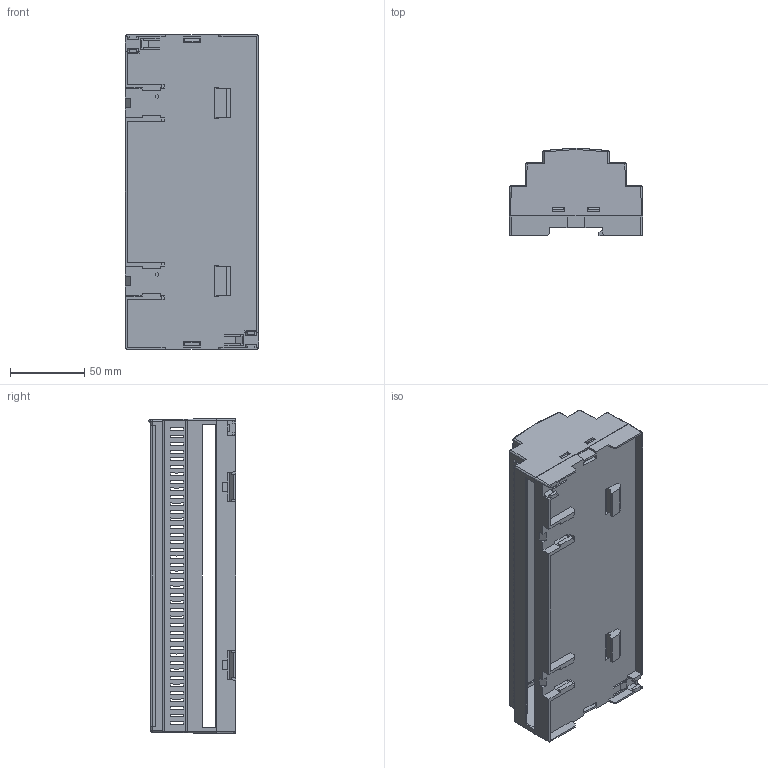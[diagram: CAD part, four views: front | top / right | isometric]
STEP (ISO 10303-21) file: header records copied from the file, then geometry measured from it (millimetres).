
FILE_DESCRIPTION (( 'STEP AP203' ), '1' );
FILE_NAME ('RT-212-E.STEP', '2021-05-31T08:59:29', ( '' ), ( '' ), 'SwSTEP 2.0', 'SolidWorks 2021', '' );
FILE_SCHEMA (( 'CONFIG_CONTROL_DESIGN' ));
Length unit declared in the file: millimetre
Products named in the file (4): RT-212-25_RT-212-25-M3; RT-212-E; RT-212-P-1; RT-212-P-2_E
Assembly tree (3 placements, depth 2):
  RT-212-E
    RT-212-P-1
    RT-212-P-2_E
    RT-212-25_RT-212-25-M3
Bounding box: 90 x 58.9 x 212.1 mm (x, y, z)
Topology: 2 solids, 11 shells, 1282 faces, 3797 edges, 2512 vertices
Faces by surface type: cylinder 788, plane 445, bspline 21, cone 16, sphere 12
Entity records: 43993 total; most frequent: CARTESIAN_POINT 13700, ORIENTED_EDGE 7569, DIRECTION 4808, EDGE_CURVE 3785, VERTEX_POINT 2508, VECTOR 2096, LINE 2096, EDGE_LOOP 1483
